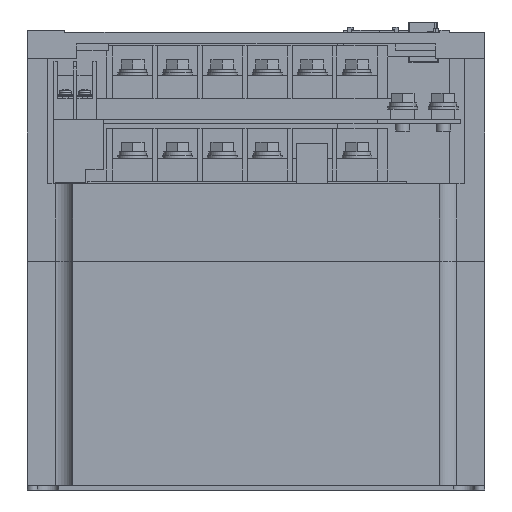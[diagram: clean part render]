
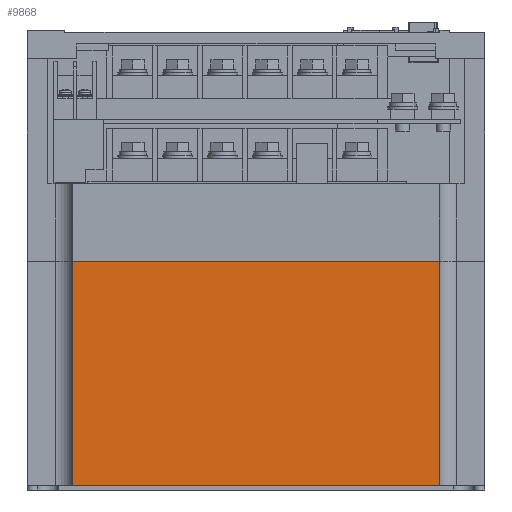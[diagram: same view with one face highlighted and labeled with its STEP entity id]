
A CAD part, front view. The second image highlights one B-rep face of the part: STEP entity #9868.
In plain terms, the highlighted planar face has unit normal (0, -1, 0).
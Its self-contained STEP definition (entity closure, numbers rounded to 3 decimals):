
#9452=DIRECTION('',(1.,0.,0.));
#9453=VECTOR('',#9452,208.);
#9454=CARTESIAN_POINT('',(-104.,-200.,130.));
#9455=LINE('',#9454,#9453);
#9482=DIRECTION('',(1.,0.,0.));
#9483=VECTOR('',#9482,208.);
#9484=CARTESIAN_POINT('',(-104.,-200.,2.5));
#9485=LINE('',#9484,#9483);
#9486=DIRECTION('',(0.,0.,1.));
#9487=VECTOR('',#9486,127.5);
#9488=CARTESIAN_POINT('',(-104.,-200.,2.5));
#9489=LINE('',#9488,#9487);
#9490=DIRECTION('',(0.,0.,1.));
#9491=VECTOR('',#9490,127.5);
#9492=CARTESIAN_POINT('',(104.,-200.,2.5));
#9493=LINE('',#9492,#9491);
#9668=CARTESIAN_POINT('',(-104.,-200.,130.));
#9669=CARTESIAN_POINT('',(104.,-200.,130.));
#9670=VERTEX_POINT('',#9668);
#9671=VERTEX_POINT('',#9669);
#9692=CARTESIAN_POINT('',(-104.,-200.,2.5));
#9693=CARTESIAN_POINT('',(104.,-200.,2.5));
#9694=VERTEX_POINT('',#9692);
#9695=VERTEX_POINT('',#9693);
#9856=CARTESIAN_POINT('',(-130.,-200.,0.));
#9857=DIRECTION('',(0.,-1.,0.));
#9858=DIRECTION('',(1.,0.,0.));
#9859=AXIS2_PLACEMENT_3D('',#9856,#9857,#9858);
#9860=PLANE('',#9859);
#9861=ORIENTED_EDGE('',*,*,#9827,.F.);
#9862=ORIENTED_EDGE('',*,*,#9784,.T.);
#9863=ORIENTED_EDGE('',*,*,#9771,.T.);
#9865=ORIENTED_EDGE('',*,*,#9864,.F.);
#9866=EDGE_LOOP('',(#9861,#9862,#9863,#9865));
#9867=FACE_OUTER_BOUND('',#9866,.F.);
#9868=ADVANCED_FACE('',(#9867),#9860,.T.);
#9771=EDGE_CURVE('',#9670,#9671,#9455,.T.);
#9784=EDGE_CURVE('',#9694,#9670,#9489,.T.);
#9827=EDGE_CURVE('',#9694,#9695,#9485,.T.);
#9864=EDGE_CURVE('',#9695,#9671,#9493,.T.);
